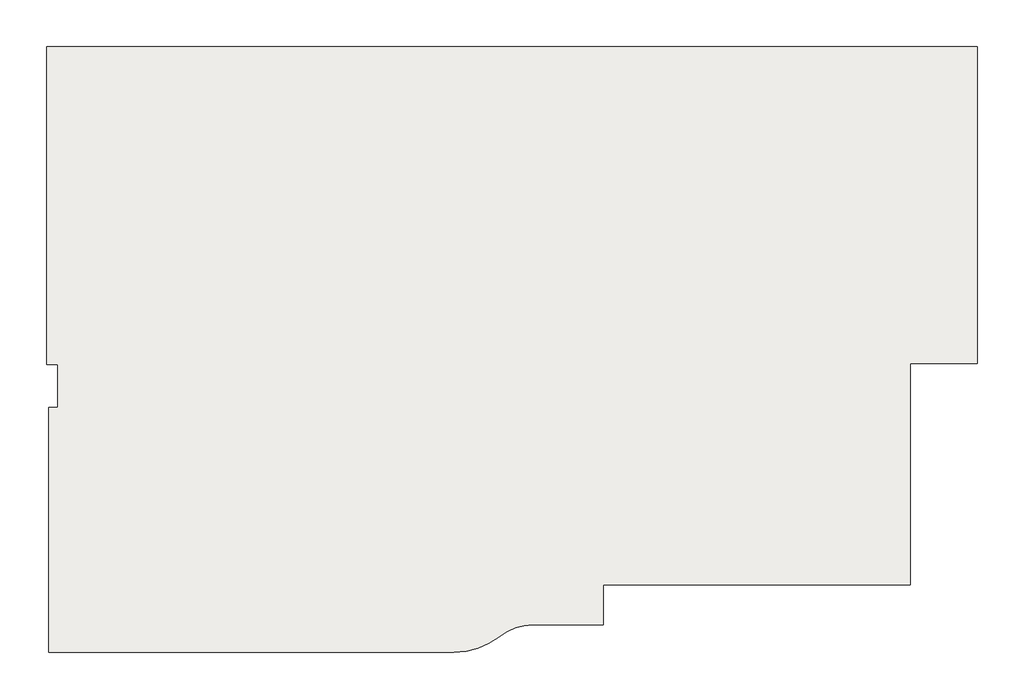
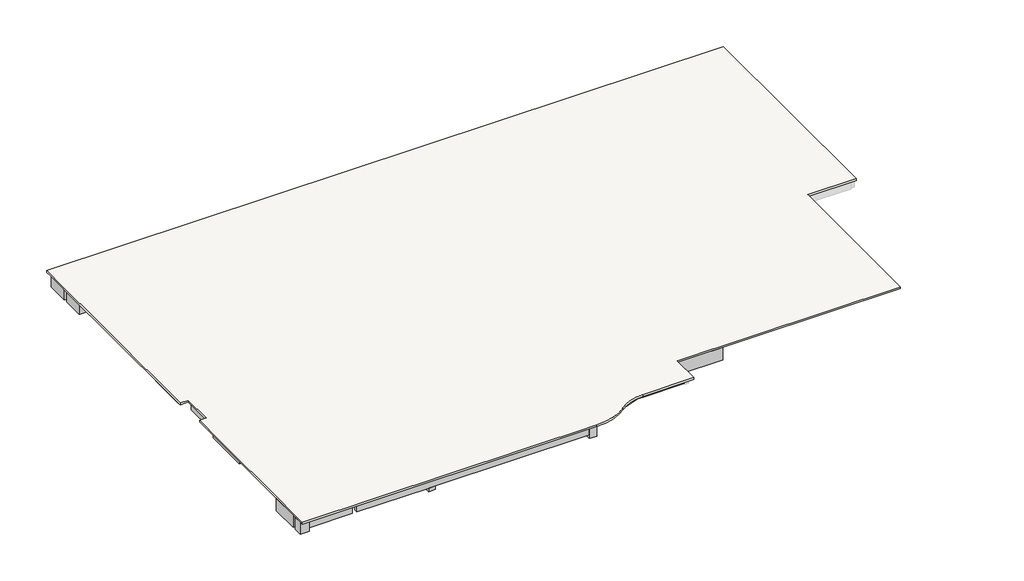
# One storey, part 1 of 3: 19 beams, 1 slab.
"""IFC4 building model written with IfcOpenShell, lengths in millimetres."""

from ifc_helpers import new_model, si_unit, point, frame, frame_2d, origin, place, context, project, spatial, polyline, circle_curve, trimmed, segment, composite_curve, outline, extrude, faceted_brep, element, save
from ifc_brep_helpers import plane_surface, cylinder_surface, revolved_surface, advanced_brep

model = new_model("IFC4")

# Units and contexts
model_context = context("Model", 3, world=origin())
ifc_project = project(units=[si_unit("LENGTHUNIT", "METRE", prefix="MILLI")], contexts=[model_context])

# Site, building, storey
site = spatial("IfcSite", under=ifc_project)
building = spatial("IfcBuilding", under=site)
storey = spatial("IfcBuildingStorey", under=building, Name="21F(S)", Elevation=4100.0)

# Beams
placement = place(None, origin())
element("IfcBeam", 1, ObjectType="混凝土 - 矩形梁 : 200x600", at=placement, inside=storey, context=model_context, shape_type="Brep", body=[
    faceted_brep([(2420.0000009, -2790.0076663, 3500.0), (6249.9993078, -2790.0076663, 3500.0), (6599.9993078, -2790.0076663, 3500.0), (14800.000833, -2790.0076663, 3500.0), (14800.000833, -2790.0076663, 4000.0), (2420.0000009, -2790.0076663, 4000.0), (2420.0000009, -2590.0076663, 3500.0), (5810.0000006, -2590.0076663, 3500.0), (5910.0000006, -2590.0076663, 3500.0), (6249.9993078, -2590.0076663, 3500.0), (6599.9993078, -2590.0076663, 3500.0), (14800.000833, -2590.0076663, 3500.0), (2420.0000009, -2590.0076663, 4000.0), (3130.0000009, -2590.0076663, 4000.0), (3380.0000009, -2590.0076663, 4000.0), (5810.0000006, -2590.0076663, 4000.0), (5910.0000006, -2590.0076663, 4000.0), (6249.9993078, -2590.0076663, 4000.0), (6599.9993078, -2590.0076663, 4000.0), (10525.000833, -2590.0076663, 4000.0), (10775.000833, -2590.0076663, 4000.0), (14800.000833, -2590.0076663, 4000.0)], [[[0, 1, 2, 3, 4, 5]], [[0, 6, 7, 8, 9, 10, 11, 3, 2, 1]], [[11, 10, 9, 8, 7, 6, 12, 13, 14, 15, 16, 17, 18, 19, 20, 21]], [[6, 0, 5, 12]], [[3, 11, 21, 4]], [[5, 4, 21, 20, 19, 18, 17, 16, 15, 14, 13, 12]]]),
    faceted_brep([(2180.0000009, -2790.0076663, 3500.0), (2180.0000009, -2590.0076663, 3500.0), (2180.0000009, -2590.0076663, 4000.0), (2180.0000009, -2790.0076663, 4000.0), (-109.9999991, -2790.0076663, 3500.0), (-109.9999991, -2790.0076663, 4000.0), (-109.9999991, -2590.0076663, 3500.0), (-109.9999991, -2590.0076663, 4000.0)], [[[0, 1, 2, 3]], [[4, 0, 3, 5]], [[1, 0, 4, 6]], [[1, 6, 7, 2]], [[6, 4, 5, 7]], [[3, 2, 7, 5]]]),
])
element("IfcBeam", 2, ObjectType="混凝土 - 矩形梁 : 200x600", at=placement, inside=storey, context=model_context, shape_type="Brep", body=[
    faceted_brep([(20680.0000015, -1199.8975826, 3500.0), (18460.0015272, -1199.8975826, 3500.0), (18360.0015272, -1199.8975826, 3500.0), (18190.5335055, -1199.8975826, 3500.0), (18190.5335055, -1199.8975826, 4000.0), (18360.0015272, -1199.8975826, 4000.0), (18460.0015272, -1199.8975826, 4000.0), (18924.9993071, -1199.8975826, 4000.0), (19174.9993071, -1199.8975826, 4000.0), (20680.0000015, -1199.8975826, 4000.0), (18190.5335055, -1399.8975826, 3500.0), (20680.0000015, -1399.8975826, 3500.0), (18460.0015272, -1399.8975826, 3500.0), (18360.0015272, -1399.8975826, 3500.0), (20680.0000015, -1399.8975826, 4000.0), (18460.0015272, -1399.8975826, 4000.0), (18360.0015272, -1399.8975826, 4000.0), (18190.5335055, -1399.8975826, 4000.0)], [[[0, 1, 2, 3, 4, 5, 6, 7, 8, 9]], [[10, 3, 2, 1, 0, 11, 12, 13]], [[10, 13, 12, 11, 14, 15, 16, 17]], [[3, 10, 17, 4]], [[11, 0, 9, 14]], [[9, 8, 7, 6, 5, 4, 17, 16, 15, 14]]]),
])
element("IfcBeam", 3, ObjectType="混凝土 - 矩形梁 : 200x600", at=placement, inside=storey, context=model_context, shape_type="SweptSolid", body=[
    extrude(outline(composite_curve([segment(trimmed(circle_curve(frame_2d((15099.9993071, -49.8975825)), 2200.0), [point((15004.3485928, -2247.8172673))], [point((16448.8286409, -1787.9020211))], True, "CARTESIAN"), True, "CONTINUOUS"), segment(polyline([(16448.8286409, -1787.9020211), (16570.7450376, -1946.4489254)]), True, "CONTINUOUS"), segment(trimmed(circle_curve(frame_2d((15099.9993071, -49.8975825)), 2400.0), [point((16570.7450376, -1946.4489254))], [point((14995.6530733, -2447.6281478))], False, "CARTESIAN"), True, "CONTINUOUS"), segment(polyline([(14995.6530733, -2447.6281478), (14800.000833, -2439.1136071), (14800.000833, -2238.9243085), (15004.3485928, -2247.8172673)]), True, "CONTINUOUS")], self_intersect=False)), frame((0.0, 0.0, 3500.0), z_axis=(0.0, 0.0, 1.0), x_axis=(1.0, 0.0, 0.0)), (0.0, 0.0, 1.0), 500.0),
])
element("IfcBeam", 4, ObjectType="混凝土 - 矩形梁 : 200x600", at=placement, inside=storey, context=model_context, shape_type="SweptSolid", body=[
    extrude(outline(composite_curve([segment(trimmed(circle_curve(frame_2d((18189.8638873, -4071.4345369)), 2871.5369544), [point((16448.8286409, -1787.9020211))], [point((18190.557666, -1199.8976664))], False, "CARTESIAN"), True, "CONTINUOUS"), segment(polyline([(18190.557666, -1199.8976664), (18190.5093449, -1399.8976605)]), True, "CONTINUOUS"), segment(trimmed(circle_curve(frame_2d((18189.8638873, -4071.4345369)), 2671.5369544), [point((18190.5093449, -1399.8976605))], [point((16570.7450376, -1946.4489254))], True, "CARTESIAN"), True, "CONTINUOUS"), segment(polyline([(16570.7450376, -1946.4489254), (16448.8286409, -1787.9020211)]), True, "CONTINUOUS")], self_intersect=False)), frame((0.0, 0.0, 3500.0), z_axis=(0.0, 0.0, 1.0), x_axis=(1.0, 0.0, 0.0)), (0.0, 0.0, 1.0), 500.0),
])
element("IfcBeam", 5, ObjectType="混凝土 - 矩形梁 : 200x600", at=placement, inside=storey, context=model_context, shape_type="SweptSolid", body=[
    extrude(outline(polyline([(-349.9999301, 10999.6101054), (-149.9999301, 10999.6101054), (-149.9999301, 8900.117755), (-349.9999301, 8900.117755), (-349.9999301, 10999.6101054)])), frame((0.0, 0.0, 3500.0), z_axis=(0.0, 0.0, 1.0), x_axis=(1.0, 0.0, 0.0)), (0.0, 0.0, 1.0), 500.0),
])
element("IfcBeam", 6, ObjectType="混凝土 - 矩形梁 : 250x500", at=placement, inside=storey, context=model_context, shape_type="Brep", body=[
    faceted_brep([(3130.0000009, -199.8975825, 3600.0), (3130.0000009, -2590.0076663, 3600.0), (3130.0000009, -2590.0076663, 4000.0), (3130.0000009, -199.8975825, 4000.0), (3380.0000009, -2590.0076663, 3600.0), (3380.0000009, -199.8975825, 3600.0), (3380.0000009, -199.8975825, 4000.0), (3380.0000009, -2590.0076663, 4000.0)], [[[0, 1, 2, 3]], [[4, 1, 0, 5]], [[4, 5, 6, 7]], [[1, 4, 7, 2]], [[5, 0, 3, 6]], [[3, 2, 7, 6]]]),
    faceted_brep([(3380.0000009, 8550.1134233, 3600.0), (3130.0000009, 8550.1134233, 3600.0), (3130.0000009, 8550.1134233, 4000.0), (3380.0000009, 8550.1134233, 4000.0), (3130.0000009, 6200.1024558, 3600.0), (3380.0000009, 6200.1024558, 3600.0), (3380.0000009, 6200.1024558, 4000.0), (3130.0000009, 6200.1024558, 4000.0)], [[[0, 1, 2, 3]], [[4, 5, 6, 7]], [[1, 4, 7, 2]], [[1, 0, 5, 4]], [[5, 0, 3, 6]], [[3, 2, 7, 6]]]),
    faceted_brep([(3380.0000009, 5900.1024558, 3600.0), (3130.0000009, 5900.1024558, 3600.0), (3130.0000009, 5900.1024558, 4000.0), (3380.0000009, 5900.1024558, 4000.0), (3380.0000009, 4869.99237, 3600.0), (3180.000001, 4869.99237, 3600.0), (3180.000001, 4869.99237, 4000.0), (3380.0000009, 4869.99237, 4000.0), (3180.000001, 5169.99237, 3600.0), (3180.000001, 5169.99237, 4000.0), (3380.0000009, 5169.99237, 3600.0), (3380.0000009, 5169.99237, 4000.0), (3130.0000009, 200.1024175, 3600.0), (3380.0000009, 200.1024175, 3600.0), (3380.0000009, 200.1024175, 4000.0), (3130.0000009, 200.1024175, 4000.0), (3130.0000009, 3000.1101238, 3600.0), (3130.0000009, 2750.1101238, 3600.0), (3130.0000009, 1309.9923684, 3600.0), (3130.0000009, 1209.9923684, 3600.0), (3130.0000009, 1209.9923684, 4000.0), (3130.0000009, 1309.9923684, 4000.0), (3130.0000009, 2750.1101238, 4000.0), (3130.0000009, 3000.1101238, 4000.0), (3380.0000009, 3000.1101238, 3600.0), (3380.0000009, 2750.1101238, 3600.0), (3380.0000009, 1309.9923684, 3600.0), (3380.0000009, 1209.9923684, 3600.0), (3380.0000009, 3000.1101238, 4000.0), (3380.0000009, 2750.1101238, 4000.0), (3380.0000009, 1309.9923684, 4000.0), (3380.0000009, 1209.9923684, 4000.0)], [[[0, 1, 2, 3]], [[4, 5, 6, 7]], [[5, 8, 9, 6]], [[8, 10, 11, 9]], [[10, 0, 3, 11]], [[12, 13, 14, 15]], [[1, 16, 17, 18, 19, 12, 15, 20, 21, 22, 23, 2]], [[1, 0, 10, 8, 5, 4, 24, 25, 26, 27, 13, 12, 19, 18, 17, 16]], [[13, 27, 26, 25, 24, 4, 7, 28, 29, 30, 31, 14]], [[3, 2, 23, 22, 21, 20, 15, 14, 31, 30, 29, 28, 7, 6, 9, 11]]]),
])
element("IfcBeam", 7, ObjectType="混凝土 - 矩形梁 : 250x500", at=placement, inside=storey, context=model_context, shape_type="Brep", body=[
    faceted_brep([(-49.5003886, 3000.1101238, 3600.0), (-49.5003886, 2750.1101238, 3600.0), (-49.5003886, 2750.1101238, 4000.0), (-49.5003886, 3000.1101238, 4000.0), (3130.0000009, 2750.1101238, 3600.0), (3130.0000009, 3000.1101238, 3600.0), (3130.0000009, 3000.1101238, 4000.0), (3130.0000009, 2750.1101238, 4000.0), (1880.0, 3000.1101238, 3600.0), (1880.0, 2800.0, 3600.0), (2080.0, 2800.0, 3600.0), (2080.0, 3000.1101238, 3600.0), (2080.0, 3000.1101238, 4000.0), (2080.0, 2800.0, 4000.0), (1880.0, 2800.0, 4000.0), (1880.0, 3000.1101238, 4000.0)], [[[0, 1, 2, 3]], [[4, 5, 6, 7]], [[1, 4, 7, 2]], [[1, 0, 8, 9, 10, 11, 5, 4]], [[5, 11, 12, 6]], [[11, 10, 13, 12]], [[10, 9, 14, 13]], [[9, 8, 15, 14]], [[8, 0, 3, 15]], [[3, 2, 7, 6, 12, 13, 14, 15]]]),
    faceted_brep([(3380.0000009, 2750.1101238, 3600.0), (3970.0000009, 2750.1101238, 3600.0), (4070.0000009, 2750.1101238, 3600.0), (6249.9993078, 2750.1101238, 3600.0), (6249.9993078, 2750.1101238, 4000.0), (4070.0000009, 2750.1101238, 4000.0), (3970.0000009, 2750.1101238, 4000.0), (3380.0000009, 2750.1101238, 4000.0), (6249.9993078, 3000.1101238, 3600.0), (3380.0000009, 3000.1101238, 3600.0), (5570.0000009, 3000.1101238, 3600.0), (5670.0000009, 3000.1101238, 3600.0), (3380.0000009, 3000.1101238, 4000.0), (5570.0000009, 3000.1101238, 4000.0), (5670.0000009, 3000.1101238, 4000.0), (6249.9993078, 3000.1101238, 4000.0), (6249.9993078, 2799.99237, 4000.0)], [[[0, 1, 2, 3, 4, 5, 6, 7]], [[8, 3, 2, 1, 0, 9, 10, 11]], [[8, 11, 10, 9, 12, 13, 14, 15]], [[3, 8, 15, 16, 4]], [[9, 0, 7, 12]], [[7, 6, 5, 4, 16, 15, 14, 13, 12]]]),
])
element("IfcBeam", 8, ObjectType="混凝土 - 矩形梁 : 300x500", at=placement, inside=storey, context=model_context, shape_type="Brep", body=[
    faceted_brep([(240.000409, 5900.1024558, 3600.0), (3130.0000009, 5900.1024558, 3600.0), (3380.0000009, 5900.1024558, 3600.0), (6249.9993078, 5900.1024558, 3600.0), (6249.9993078, 5900.1024558, 4000.0), (3380.0000009, 5900.1024558, 4000.0), (3130.0000009, 5900.1024558, 4000.0), (240.000409, 5900.1024558, 4000.0), (240.000409, 6200.1024558, 3600.0), (3130.0000009, 6200.1024558, 3600.0), (3380.0000009, 6200.1024558, 3600.0), (6249.9993078, 6200.1024558, 3600.0), (240.000409, 6200.1024558, 4000.0), (3130.0000009, 6200.1024558, 4000.0), (3380.0000009, 6200.1024558, 4000.0), (6249.9993078, 6200.1024558, 4000.0)], [[[0, 1, 2, 3, 4, 5, 6, 7]], [[3, 2, 1, 0, 8, 9, 10, 11]], [[11, 10, 9, 8, 12, 13, 14, 15]], [[3, 11, 15, 4]], [[8, 0, 7, 12]], [[7, 6, 5, 4, 15, 14, 13, 12]]]),
])
element("IfcBeam", 9, ObjectType="混凝土 - 矩形梁 : 300x500", at=placement, inside=storey, context=model_context, shape_type="Brep", body=[
    faceted_brep([(6599.9993078, 2250.0, 3600.0), (10525.000833, 2250.0, 3600.0), (10775.000833, 2250.0, 3600.0), (14800.000833, 2250.0, 3600.0), (14800.000833, 2250.0, 4000.0), (10775.000833, 2250.0, 4000.0), (10525.000833, 2250.0, 4000.0), (6599.9993078, 2250.0, 4000.0), (14800.000833, 2550.0, 3600.0), (6599.9993078, 2550.0, 3600.0), (10525.000833, 2550.0, 3600.0), (10775.000833, 2550.0, 3600.0), (6599.9993078, 2550.0, 4000.0), (10525.000833, 2550.0, 4000.0), (10775.000833, 2550.0, 4000.0), (14800.000833, 2550.0, 4000.0)], [[[0, 1, 2, 3, 4, 5, 6, 7]], [[8, 3, 2, 1, 0, 9, 10, 11]], [[8, 11, 10, 9, 12, 13, 14, 15]], [[3, 8, 15, 4]], [[9, 0, 7, 12]], [[7, 6, 5, 4, 15, 14, 13, 12]]]),
])
element("IfcBeam", 10, ObjectType="混凝土 - 矩形梁 : 300x500", at=placement, inside=storey, context=model_context, shape_type="SweptSolid", body=[
    extrude(outline(polyline([(6250.0000005, 4869.99237), (3380.0000009, 4869.99237), (3380.0000009, 5169.99237), (6250.0000005, 5169.99237), (6250.0000005, 4869.99237)])), frame((0.0, 0.0, 3600.0), z_axis=(0.0, 0.0, 1.0), x_axis=(1.0, 0.0, 0.0)), (0.0, 0.0, 1.0), 400.0),
])
element("IfcBeam", 11, ObjectType="混凝土 - 矩形梁 : 300x600", at=placement, inside=storey, context=model_context, shape_type="SweptSolid", body=[
    extrude(outline(polyline([(-50.0000136, 3300.6138993), (-350.0000136, 3300.6138993), (-350.0000136, 5700.1100838), (-50.0000136, 5700.1100838), (-50.0000136, 3300.6138993)])), frame((0.0, 0.0, 3500.0), z_axis=(0.0, 0.0, 1.0), x_axis=(1.0, 0.0, 0.0)), (0.0, 0.0, 1.0), 500.0),
])
element("IfcBeam", 12, ObjectType="混凝土 - 矩形梁 : 300x600", at=placement, inside=storey, context=model_context, shape_type="Brep", body=[
    faceted_brep([(210.0000009, 6300.007668, 3500.0), (210.0000009, 8150.0000401, 3500.0), (210.0000009, 8150.0000401, 4000.0), (210.0000009, 6300.007668, 4000.0), (-89.9999991, 6300.007668, 3500.0), (-89.9999991, 6500.0000361, 3500.0), (-89.9999991, 8150.0000401, 3500.0), (-89.9999991, 6300.007668, 4000.0), (-89.9999991, 6500.0000361, 4000.0), (-89.9999991, 8150.0000401, 4000.0)], [[[0, 1, 2, 3]], [[0, 4, 5, 6, 1]], [[6, 5, 4, 7, 8, 9]], [[4, 0, 3, 7]], [[1, 6, 9, 2]], [[3, 2, 9, 8, 7]]]),
])
element("IfcBeam", 13, ObjectType="混凝土 - 矩形梁 : 350x800", at=placement, inside=storey, context=model_context, shape_type="Brep", body=[
    faceted_brep([(6599.9993078, 600.0000384, 3300.0), (6599.9993078, 1209.9923683, 3300.0), (6599.9993078, 1309.9923683, 3300.0), (6599.9993078, 8200.0110062, 3300.0), (6599.9993078, 8200.0110062, 4000.0), (6599.9993078, 6169.9770708, 4000.0), (6599.9993078, 5919.9770708, 4000.0), (6599.9993078, 2550.0, 4000.0), (6599.9993078, 2250.0, 4000.0), (6599.9993078, 1309.9923683, 4000.0), (6599.9993078, 1209.9923683, 4000.0), (6599.9993078, 600.0000384, 4000.0), (6249.9993078, 8200.0110062, 3300.0), (6249.9993078, 600.0000384, 3300.0), (6249.9993078, 1209.9923683, 3300.0), (6249.9993078, 1309.9923683, 3300.0), (6249.9993078, 2799.99237, 3300.0), (6450.0000009, 2799.99237, 3300.0), (6450.0000009, 2999.99237, 3300.0), (6249.9993078, 2999.99237, 3300.0), (6249.9993078, 4869.99237, 3300.0), (6450.0000006, 4869.99237, 3300.0), (6450.0000006, 5169.99237, 3300.0), (6249.9993078, 5169.99237, 3300.0), (6249.9993078, 5169.99237, 4000.0), (6249.9993078, 5900.1024558, 4000.0), (6249.9993078, 6200.1024558, 4000.0), (6249.9993078, 8200.0110062, 4000.0), (6249.9993078, 600.0000384, 4000.0), (6450.0000009, 2799.99237, 4000.0), (6450.0000009, 2999.99237, 4000.0), (6249.9993078, 2799.99237, 4000.0), (6249.9993078, 2999.99237, 4000.0), (6249.9993078, 1209.9923683, 4000.0), (6249.9993078, 1309.9923683, 4000.0), (6249.9993078, 2750.1101238, 4000.0), (6450.0000006, 4869.99237, 4000.0), (6450.0000006, 5169.99237, 4000.0), (6249.9993078, 4869.99237, 4000.0)], [[[0, 1, 2, 3, 4, 5, 6, 7, 8, 9, 10, 11]], [[12, 3, 2, 1, 0, 13, 14, 15, 16, 17, 18, 19, 20, 21, 22, 23]], [[12, 23, 24, 25, 26, 27]], [[3, 12, 27, 4]], [[13, 0, 11, 28]], [[18, 17, 29, 30]], [[17, 16, 31, 29]], [[19, 18, 30, 32]], [[16, 15, 14, 13, 28, 33, 34, 35, 31]], [[22, 21, 36, 37]], [[21, 20, 38, 36]], [[23, 22, 37, 24]], [[20, 19, 32, 38]], [[11, 10, 9, 8, 7, 6, 5, 4, 27, 26, 25, 24, 37, 36, 38, 32, 30, 29, 31, 35, 34, 33, 28]]]),
    faceted_brep([(6249.9993078, -2790.0076663, 3300.0), (6599.9993078, -2790.0076663, 3300.0), (6599.9993078, -2790.0076663, 3500.0), (6249.9993078, -2790.0076663, 3500.0), (6599.9993078, -2590.0076663, 3500.0), (6249.9993078, -2590.0076663, 3500.0), (6599.9993078, -2590.0076663, 4000.0), (6249.9993078, -2590.0076663, 4000.0), (6599.9993078, -299.9999616, 3300.0), (6249.9993078, -299.9999616, 3300.0), (6249.9993078, -299.9999616, 4000.0), (6599.9993078, -299.9999616, 4000.0)], [[[0, 1, 2, 3]], [[4, 5, 3, 2]], [[5, 4, 6, 7]], [[8, 9, 10, 11]], [[2, 1, 8, 11, 6, 4]], [[1, 0, 9, 8]], [[0, 3, 5, 7, 10, 9]], [[7, 6, 11, 10]]]),
])
element("IfcBeam", 14, ObjectType="混凝土 - 矩形梁 : 400x800", at=placement, inside=storey, context=model_context, shape_type="Brep", body=[
    faceted_brep([(190.0000009, -199.8975825, 3300.0), (5810.0000007, -199.8975825, 3300.0), (5810.0000007, -199.8975825, 4000.0), (3380.0000009, -199.8975825, 4000.0), (3130.0000009, -199.8975825, 4000.0), (190.0000009, -199.8975825, 4000.0), (190.0000009, 200.1024175, 3300.0), (5810.0000007, 200.1024175, 3300.0), (190.0000009, 200.1024175, 4000.0), (3130.0000009, 200.1024175, 4000.0), (3380.0000009, 200.1024175, 4000.0), (5810.0000007, 200.1024175, 4000.0)], [[[0, 1, 2, 3, 4, 5]], [[1, 0, 6, 7]], [[7, 6, 8, 9, 10, 11]], [[6, 0, 5, 8]], [[1, 7, 11, 2]], [[5, 4, 3, 2, 11, 10, 9, 8]]]),
])
element("IfcBeam", 15, ObjectType="混凝土 - 矩形梁 : 400x800", at=placement, inside=storey, context=model_context, shape_type="Brep", body=[
    faceted_brep([(6610.0000007, -200.0, 3300.0), (12110.0015272, -200.0, 3300.0), (12210.0015272, -200.0, 3300.0), (14710.001528, -200.0, 3300.0), (14710.001528, -200.0, 4000.0), (12210.0015272, -200.0, 4000.0), (12110.0015272, -200.0, 4000.0), (10775.000833, -200.0, 4000.0), (10525.000833, -200.0, 4000.0), (6610.0000007, -200.0, 4000.0), (6610.0000007, 200.0, 3300.0), (12110.0015272, 200.0, 3300.0), (12210.0015272, 200.0, 3300.0), (14710.001528, 200.0, 3300.0), (6610.0000007, 200.0, 4000.0), (10525.000833, 200.0, 4000.0), (10775.000833, 200.0, 4000.0), (12110.0015272, 200.0, 4000.0), (12210.0015272, 200.0, 4000.0), (14710.001528, 200.0, 4000.0)], [[[0, 1, 2, 3, 4, 5, 6, 7, 8, 9]], [[0, 10, 11, 12, 13, 3, 2, 1]], [[13, 12, 11, 10, 14, 15, 16, 17, 18, 19]], [[10, 0, 9, 14]], [[3, 13, 19, 4]], [[9, 8, 7, 6, 5, 4, 19, 18, 17, 16, 15, 14]]]),
])
element("IfcBeam", 16, ObjectType="混凝土 - 矩形梁 : 400x800", at=placement, inside=storey, context=model_context, shape_type="Brep", body=[
    faceted_brep([(23319.500764, -380.00763, 3300.0), (23319.500764, 19.99237, 3300.0), (23319.500764, 19.99237, 4000.0), (23319.500764, -380.00763, 4000.0), (15510.001528, -380.00763, 3300.0), (18360.0015272, -380.00763, 3300.0), (18460.0015272, -380.00763, 3300.0), (20880.0000015, -380.00763, 4000.0), (20680.0000015, -380.00763, 4000.0), (19174.9993071, -380.00763, 4000.0), (18924.9993071, -380.00763, 4000.0), (18460.0015272, -380.00763, 4000.0), (18360.0015272, -380.00763, 4000.0), (15510.001528, -380.00763, 4000.0), (15510.001528, 19.99237, 3300.0), (18360.0015272, 19.99237, 3300.0), (18460.0015272, 19.99237, 3300.0), (15510.001528, 19.99237, 4000.0), (18360.0015272, 19.99237, 4000.0), (18460.0015272, 19.99237, 4000.0), (18924.9993071, 19.99237, 4000.0), (19174.9993071, 19.99237, 4000.0), (20680.0000015, 19.99237, 4000.0), (20880.0000015, 19.99237, 4000.0)], [[[0, 1, 2, 3]], [[4, 5, 6, 0, 3, 7, 8, 9, 10, 11, 12, 13]], [[1, 0, 6, 5, 4, 14, 15, 16]], [[1, 16, 15, 14, 17, 18, 19, 20, 21, 22, 23, 2]], [[14, 4, 13, 17]], [[3, 2, 23, 22, 21, 20, 19, 18, 17, 13, 12, 11, 10, 9, 8, 7]]]),
])
element("IfcBeam", 17, ObjectType="混凝土 - 矩形梁 : 400x800", at=placement, inside=storey, context=model_context, shape_type="Brep", body=[
    faceted_brep([(14800.000833, -399.9999984, 3300.0), (14800.000833, -2790.0076663, 3300.0), (14800.000833, -2790.0076663, 3500.0), (14800.000833, -2790.0076663, 4000.0), (14800.000833, -2590.0076663, 4000.0), (14800.000833, -399.9999984, 4000.0), (15200.000833, -2790.0076663, 3300.0), (15200.000833, -399.9999984, 3300.0), (15200.000833, -399.9999984, 4000.0), (15200.000833, -2790.0076663, 4000.0)], [[[0, 1, 2, 3, 4, 5]], [[6, 1, 0, 7]], [[6, 7, 8, 9]], [[1, 6, 9, 3, 2]], [[7, 0, 5, 8]], [[5, 4, 3, 9, 8]]]),
    faceted_brep([(15200.000833, 8250.0000384, 3300.0), (14800.000833, 8250.0000384, 3300.0), (14800.000833, 8250.0000384, 4000.0), (15200.000833, 8250.0000384, 4000.0), (14800.000833, 500.0000016, 3300.0), (15060.0015272, 500.0000016, 3300.0), (15160.0015272, 500.0000016, 3300.0), (15200.000833, 500.0000016, 3300.0), (15200.000833, 500.0000016, 4000.0), (14800.000833, 500.0000016, 4000.0), (14800.000833, 6980.0056251, 3300.0), (14800.000833, 6880.0056251, 3300.0), (14800.000833, 1309.9923683, 3300.0), (14800.000833, 1209.9923683, 3300.0), (14800.000833, 1209.9923683, 4000.0), (14800.000833, 1309.9923683, 4000.0), (14800.000833, 2250.0, 4000.0), (14800.000833, 2550.0, 4000.0), (14800.000833, 5919.9770708, 4000.0), (14800.000833, 6169.9770708, 4000.0), (14800.000833, 6880.0056251, 4000.0), (14800.000833, 6980.0056251, 4000.0), (15200.000833, 6980.0056251, 3300.0), (15200.000833, 6880.0056251, 3300.0), (15200.000833, 1309.9923683, 3300.0), (15200.000833, 1209.9923683, 3300.0), (15200.000833, 6980.0056251, 4000.0), (15200.000833, 6880.0056251, 4000.0), (15200.000833, 6219.9770708, 4000.0), (15200.000833, 5919.9770708, 4000.0), (15200.000833, 2520.0955285, 4000.0), (15200.000833, 2220.0955285, 4000.0), (15200.000833, 1309.9923683, 4000.0), (15200.000833, 1209.9923683, 4000.0)], [[[0, 1, 2, 3]], [[4, 5, 6, 7, 8, 9]], [[1, 10, 11, 12, 13, 4, 9, 14, 15, 16, 17, 18, 19, 20, 21, 2]], [[1, 0, 22, 23, 24, 25, 7, 6, 5, 4, 13, 12, 11, 10]], [[7, 25, 24, 23, 22, 0, 3, 26, 27, 28, 29, 30, 31, 32, 33, 8]], [[3, 2, 21, 20, 19, 18, 17, 16, 15, 14, 9, 8, 33, 32, 31, 30, 29, 28, 27, 26]]]),
])
element("IfcBeam", 18, ObjectType="混凝土 - 矩形梁 : 400x800", at=placement, inside=storey, context=model_context, shape_type="Brep", body=[
    faceted_brep([(-600.0, 17639.9923585, 3300.0), (-200.0, 17639.9923585, 3300.0), (-200.0, 17639.9923585, 4000.0), (-600.0, 17639.9923585, 4000.0), (-200.0, 20189.9923697, 3300.0), (-200.0, 20189.9923697, 3500.0), (-200.0, 20189.9923697, 4000.0), (-200.0, 19989.9923697, 4000.0), (-600.0, 18799.99237, 3300.0), (-489.9999991, 18799.99237, 3300.0), (-489.9999991, 18999.99237, 3300.0), (-600.0, 18999.99237, 3300.0), (-600.0, 20189.9923697, 3300.0), (-489.999999, 20189.9923697, 3300.0), (-600.0, 18999.99237, 4000.0), (-600.0, 20189.9923697, 4000.0), (-489.999999, 20189.9923697, 4000.0), (-489.9999991, 18799.99237, 4000.0), (-489.9999991, 18999.99237, 4000.0), (-600.0, 18799.99237, 3500.0), (-600.0, 18799.99237, 4000.0)], [[[0, 1, 2, 3]], [[1, 4, 5, 6, 7, 2]], [[1, 0, 8, 9, 10, 11, 12, 13, 4]], [[12, 11, 14, 15]], [[4, 13, 12, 15, 16, 6, 5]], [[10, 9, 17, 18]], [[9, 8, 19, 20, 17]], [[11, 10, 18, 14]], [[8, 0, 3, 20, 19]], [[3, 2, 7, 6, 16, 15, 14, 18, 17, 20]]]),
])
element("IfcBeam", 19, ObjectType="混凝土 - 矩形梁 : 500x800", at=placement, inside=storey, context=model_context, shape_type="Brep", body=[
    faceted_brep([(-109.9999991, -2790.0076663, 3300.0), (-109.9999991, -599.9999983, 3300.0), (-109.9999991, -599.9999983, 4000.0), (-109.9999991, -2590.0076663, 4000.0), (-109.9999991, -2790.0076663, 4000.0), (-109.9999991, -2790.0076663, 3500.0), (-609.9999991, -2790.0076663, 3300.0), (-609.9999991, -2350.00763, 3300.0), (-409.9999991, -2350.00763, 3300.0), (-409.9999991, -2150.00763, 3300.0), (-609.9999991, -2150.00763, 3300.0), (-609.9999991, -599.9999983, 3300.0), (-609.9999991, -2150.00763, 4000.0), (-609.9999991, -599.9999983, 4000.0), (-609.9999991, -2790.0076663, 4000.0), (-409.9999991, -2350.00763, 4000.0), (-409.9999991, -2150.00763, 4000.0), (-609.9999991, -2350.00763, 4000.0)], [[[0, 1, 2, 3, 4, 5]], [[0, 6, 7, 8, 9, 10, 11, 1]], [[11, 10, 12, 13]], [[6, 0, 5, 4, 14]], [[1, 11, 13, 2]], [[9, 8, 15, 16]], [[8, 7, 17, 15]], [[10, 9, 16, 12]], [[7, 6, 14, 17]], [[4, 3, 2, 13, 12, 16, 15, 17, 14]]]),
])

# Slab
element("IfcSlab", 20, ObjectType="B-100mm", at=placement, inside=storey, context=model_context, shape_type="AdvancedBrep", body=[
    advanced_brep(
    [(35390.0000001, 20489.99237, 4000.0), (35390.0000001, 20189.9923697, 4000.0), (35390.0000001, 19989.9923697, 4000.0), (35390.0000001, 17039.9923699, 4000.0), (35390.0000001, 16839.9923699, 4000.0), (35390.0000001, 14639.8579857, 4000.0), (35390.0000001, 14439.8579857, 4000.0), (35390.0000001, 13239.9847063, 4000.0), (35390.0000001, 13039.9847063, 4000.0), (35390.0000001, 12239.9877926, 4000.0), (35390.0000001, 12039.9877926, 4000.0), (35390.0000001, 10489.9847397, 4000.0), (35390.0000001, 10289.9847397, 4000.0), (35390.0000001, 8389.9847401, 4000.0), (35390.0000001, 8189.9924085, 4000.0), (32790.0000031, 8189.9924085, 4000.0), (32790.0000031, 5919.9999611, 4000.0), (32790.0000031, 2519.9999611, 4000.0), (32790.0000031, -380.0076684, 4000.0), (20880.0000015, -380.0076684, 4000.0), (20880.0000015, -1453.0229285, 4000.0), (20880.0000015, -1943.00763, 4000.0), (18165.5342117, -1943.00763, 4000.0), (16847.3545005, -2401.5, 4000.0), (15100.0248321, -2999.9846886, 4000.0), (-609.9999992, -2999.9846884, 4000.0), (-609.9999992, -2800.0152735, 4000.0), (-609.9999992, -2790.0076663, 4000.0), (-609.9999992, -2350.00763, 4000.0), (-609.9999992, -2150.00763, 4000.0), (-609.9999992, -599.9999983, 4000.0), (-609.9999992, 200.0000017, 4000.0), (-609.9999992, 6500.0000361, 4000.0), (-249.9999991, 6500.0000361, 4000.0), (-249.9999991, 8150.0000401, 4000.0), (-689.9999991, 8150.0000401, 4000.0), (-689.9999991, 8900.0000401, 4000.0), (-689.9999991, 9150.0000383, 4000.0), (-689.9999991, 9350.0000383, 4000.0), (-689.9999991, 18799.99237, 4000.0), (-689.9999991, 18999.99237, 4000.0), (-689.9999991, 20199.9885166, 4000.0), (-689.9999991, 20449.9885166, 4000.0), (-689.9999991, 20489.99237, 4000.0), (35390.0000001, 20489.99237, 4100.0), (-689.9999991, 20489.99237, 4100.0), (-689.9999991, 8150.0000401, 4100.0), (-249.9999991, 8150.0000401, 4100.0), (-249.9999991, 6500.0000361, 4100.0), (-609.9999992, 6500.0000361, 4100.0), (-609.9999992, -2999.9846884, 4100.0), (15100.0248321, -2999.9846886, 4100.0), (16847.3545005, -2401.5, 4100.0), (18165.5342117, -1943.00763, 4100.0), (20880.0000015, -1943.00763, 4100.0), (20880.0000015, -380.0076684, 4100.0), (32790.0000031, -380.0076684, 4100.0), (32790.0000031, 8189.9924085, 4100.0), (35390.0000001, 8189.9924085, 4100.0)],
    [
        (0, 1),
        (1, 2),
        (2, 3),
        (3, 4),
        (4, 5),
        (5, 6),
        (6, 7),
        (7, 8),
        (8, 9),
        (9, 10),
        (10, 11),
        (11, 12),
        (12, 13),
        (13, 14),
        (14, 15),
        (15, 16),
        (16, 17),
        (17, 18),
        (18, 19),
        (19, 20),
        (20, 21),
        (21, 22),
        (22, 23, circle_curve(frame((18176.899868, -4099.8340997, 4000.0), z_axis=(0.0, 0.0, 1.0), x_axis=(1.0, 0.0, 0.0)), 2156.8564159)),
        (23, 24, circle_curve(frame((15100.0248321, -149.9995869, 4000.0), z_axis=(0.0, 0.0, -1.0), x_axis=(1.0, 0.0, 0.0)), 2849.9851017)),
        (24, 25),
        (25, 26),
        (26, 27),
        (27, 28),
        (28, 29),
        (29, 30),
        (30, 31),
        (31, 32),
        (32, 33),
        (33, 34),
        (34, 35),
        (35, 36),
        (36, 37),
        (37, 38),
        (38, 39),
        (39, 40),
        (40, 41),
        (41, 42),
        (42, 43),
        (43, 0),
        (44, 45),
        (45, 46),
        (46, 47),
        (47, 48),
        (48, 49),
        (49, 50),
        (50, 51),
        (51, 52, circle_curve(frame((15100.0248321, -149.9995869, 4100.0), z_axis=(0.0, 0.0, 1.0), x_axis=(1.0, 0.0, 0.0)), 2849.9851017)),
        (52, 53, circle_curve(frame((18176.899868, -4099.8340997, 4100.0), z_axis=(0.0, 0.0, -1.0), x_axis=(1.0, 0.0, 0.0)), 2156.8564159)),
        (53, 54),
        (54, 55),
        (55, 56),
        (56, 57),
        (57, 58),
        (58, 44),
        (0, 44),
        (58, 14),
        (57, 15),
        (56, 18),
        (55, 19),
        (54, 21),
        (53, 22),
        (52, 23),
        (51, 24),
        (50, 25),
        (49, 32),
        (48, 33),
        (47, 34),
        (46, 35),
        (45, 43),
    ],
    [
        plane_surface(frame((35390.0000001, 17600.0122861, 4000.0), z_axis=(0.0, 0.0, -1.0), x_axis=(0.0, -1.0, 0.0))),
        plane_surface(frame((35390.0000001, 17600.0122861, 4100.0), z_axis=(0.0, 0.0, 1.0), x_axis=(0.0, 1.0, 0.0))),
        plane_surface(frame((35390.0000001, 20489.99237, 4000.0), z_axis=(1.0, 0.0, 0.0), x_axis=(0.0, 0.0, 1.0))),
        plane_surface(frame((35390.0000001, 8189.9924085, 4000.0), z_axis=(0.0, -1.0, 0.0), x_axis=(0.0, 0.0, 1.0))),
        plane_surface(frame((32790.0000031, 8189.9924085, 4000.0), z_axis=(1.0, 0.0, 0.0), x_axis=(0.0, 0.0, 1.0))),
        plane_surface(frame((32790.0000031, -380.0076684, 4000.0), z_axis=(0.0, -1.0, 0.0), x_axis=(0.0, 0.0, 1.0))),
        plane_surface(frame((20880.0000015, -380.0076684, 4000.0), z_axis=(1.0, 0.0, 0.0), x_axis=(0.0, 0.0, 1.0))),
        plane_surface(frame((20880.0000015, -1943.00763, 4000.0), z_axis=(0.0, -1.0, 0.0), x_axis=(0.0, 0.0, 1.0))),
        revolved_surface(polyline([(20333.756283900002, -4099.8340997, 4100.0), (20333.756283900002, -4099.8340997, 4000.0)]), (18176.899868, -4099.8340997, 4100.0), (0.0, 0.0, 1.0)),
        cylinder_surface(frame((15100.0248321, -149.9995869, 4100.0), z_axis=(0.0, 0.0, -1.0), x_axis=(1.0, 0.0, 0.0)), 2849.9851017),
        plane_surface(frame((15100.0248321, -2999.9846886, 4000.0), z_axis=(-1.2524017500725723e-11, -1.0, 0.0), x_axis=(0.0, 0.0, 1.0))),
        plane_surface(frame((-609.9999992, -2999.9846884, 4000.0), z_axis=(-1.0, 0.0, 0.0), x_axis=(0.0, 0.0, 1.0))),
        plane_surface(frame((-609.9999992, 6500.0000361, 4000.0), z_axis=(0.0, 1.0, 0.0), x_axis=(0.0, 0.0, 1.0))),
        plane_surface(frame((-249.9999991, 6500.0000361, 4000.0), z_axis=(-1.0, 0.0, 0.0), x_axis=(0.0, 0.0, 1.0))),
        plane_surface(frame((-249.9999991, 8150.0000401, 4000.0), z_axis=(0.0, -1.0, 0.0), x_axis=(0.0, 0.0, 1.0))),
        plane_surface(frame((-689.9999991, 8150.0000401, 4000.0), z_axis=(-1.0, 0.0, 0.0), x_axis=(0.0, 0.0, 1.0))),
        plane_surface(frame((-689.9999991, 20489.99237, 4000.0), z_axis=(0.0, 1.0, 0.0), x_axis=(0.0, 0.0, 1.0))),
    ],
    [
        (0, [[1, 2, 3, 4, 5, 6, 7, 8, 9, 10, 11, 12, 13, 14, 15, 16, 17, 18, 19, 20, 21, 22, 23, 24, 25, 26, 27, 28, 29, 30, 31, 32, 33, 34, 35, 36, 37, 38, 39, 40, 41, 42, 43, 44]]),
        (1, [[45, 46, 47, 48, 49, 50, 51, 52, 53, 54, 55, 56, 57, 58, 59]]),
        (2, [[-14, -13, -12, -11, -10, -9, -8, -7, -6, -5, -4, -3, -2, -1, 60, -59, 61]]),
        (3, [[-15, -61, -58, 62]]),
        (4, [[-18, -17, -16, -62, -57, 63]]),
        (5, [[-19, -63, -56, 64]]),
        (6, [[-21, -20, -64, -55, 65]]),
        (7, [[-22, -65, -54, 66]]),
        (8, [[-23, -66, -53, 67]]),
        (9, [[-24, -67, -52, 68]]),
        (10, [[-25, -68, -51, 69]]),
        (11, [[-32, -31, -30, -29, -28, -27, -26, -69, -50, 70]]),
        (12, [[-33, -70, -49, 71]]),
        (13, [[-34, -71, -48, 72]]),
        (14, [[-35, -72, -47, 73]]),
        (15, [[-43, -42, -41, -40, -39, -38, -37, -36, -73, -46, 74]]),
        (16, [[-44, -74, -45, -60]]),
    ],
),
])

save(model, "model.ifc")
